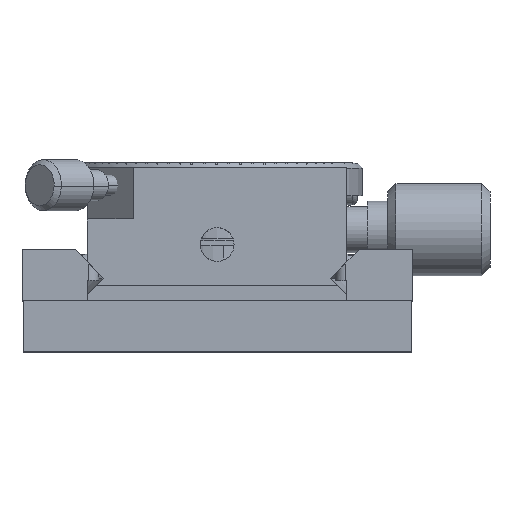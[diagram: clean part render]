
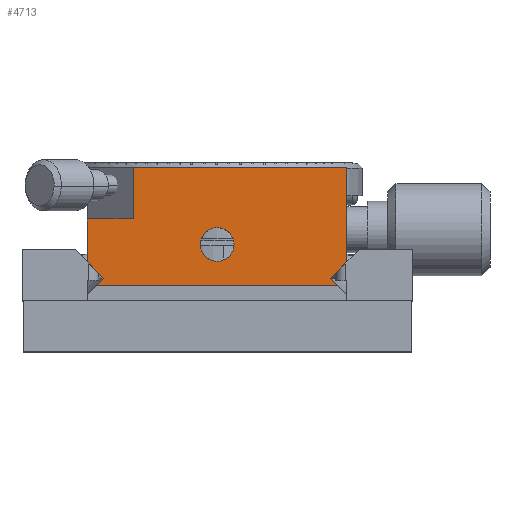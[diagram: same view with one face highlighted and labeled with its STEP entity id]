
A CAD part, top view. The second image highlights one B-rep face of the part: STEP entity #4713.
In plain terms, the highlighted planar face has unit normal (0, 0, 1).
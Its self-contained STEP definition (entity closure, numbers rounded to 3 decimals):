
#282 = ORIENTED_EDGE ( 'NONE', *, *, #7413, .F. ) ;
#366 = LINE ( 'NONE', #12279, #8212 ) ;
#406 = EDGE_CURVE ( 'NONE', #5130, #18977, #7727, .T. ) ;
#467 = CARTESIAN_POINT ( 'NONE',  ( -12.7, 1.5, 16.5 ) ) ;
#575 = ORIENTED_EDGE ( 'NONE', *, *, #2664, .T. ) ;
#828 = CARTESIAN_POINT ( 'NONE',  ( -12.7, 6.5, 16.5 ) ) ;
#862 = LINE ( 'NONE', #828, #13836 ) ;
#1546 = DIRECTION ( 'NONE',  ( 0., 0., 1. ) ) ;
#1669 = CIRCLE ( 'NONE', #15930, 1.65 ) ;
#1807 = ORIENTED_EDGE ( 'NONE', *, *, #8886, .F. ) ;
#1964 = EDGE_CURVE ( 'NONE', #5130, #6741, #862, .T. ) ;
#2397 = CARTESIAN_POINT ( 'NONE',  ( 11.8, -5., 16.5 ) ) ;
#2419 = LINE ( 'NONE', #16889, #5595 ) ;
#2651 = VERTEX_POINT ( 'NONE', #3806 ) ;
#2664 = EDGE_CURVE ( 'NONE', #3949, #12070, #14040, .T. ) ;
#3019 = VERTEX_POINT ( 'NONE', #17888 ) ;
#3539 = CARTESIAN_POINT ( 'NONE',  ( -12.7, 1.5, 16.5 ) ) ;
#3806 = CARTESIAN_POINT ( 'NONE',  ( 12.7, 6.5, 16.5 ) ) ;
#3949 = VERTEX_POINT ( 'NONE', #6855 ) ;
#4036 = CARTESIAN_POINT ( 'NONE',  ( -12.7, -2.7, 16.5 ) ) ;
#4078 = AXIS2_PLACEMENT_3D ( 'NONE', #10941, #1546, #12495 ) ;
#4082 = VECTOR ( 'NONE', #4126, 1000. ) ;
#4126 = DIRECTION ( 'NONE',  ( -1., 0., 0. ) ) ;
#4398 = ORIENTED_EDGE ( 'NONE', *, *, #406, .F. ) ;
#4463 = DIRECTION ( 'NONE',  ( 1., 0., 0. ) ) ;
#4713 = ADVANCED_FACE ( 'NONE', ( #13728, #13229 ), #17901, .F. ) ;
#4756 = CIRCLE ( 'NONE', #4078, 1.65 ) ;
#5100 = VERTEX_POINT ( 'NONE', #17583 ) ;
#5130 = VERTEX_POINT ( 'NONE', #467 ) ;
#5436 = DIRECTION ( 'NONE',  ( 0.707, -0.707, 0. ) ) ;
#5461 = DIRECTION ( 'NONE',  ( -0.707, -0.707, 0. ) ) ;
#5595 = VECTOR ( 'NONE', #5938, 1000. ) ;
#5938 = DIRECTION ( 'NONE',  ( -0.707, -0.707, 0. ) ) ;
#6021 = EDGE_CURVE ( 'NONE', #2651, #19537, #8269, .T. ) ;
#6136 = VECTOR ( 'NONE', #5436, 1000. ) ;
#6223 = ORIENTED_EDGE ( 'NONE', *, *, #12366, .F. ) ;
#6463 = CARTESIAN_POINT ( 'NONE',  ( -8.2, 1.5, 16.5 ) ) ;
#6741 = VERTEX_POINT ( 'NONE', #4036 ) ;
#6855 = CARTESIAN_POINT ( 'NONE',  ( -11.1, -4.3, 16.5 ) ) ;
#6963 = CARTESIAN_POINT ( 'NONE',  ( 0., -1., 16.5 ) ) ;
#7413 = EDGE_CURVE ( 'NONE', #3019, #5100, #1669, .T. ) ;
#7727 = LINE ( 'NONE', #3539, #8231 ) ;
#8202 = VERTEX_POINT ( 'NONE', #11351 ) ;
#8212 = VECTOR ( 'NONE', #4463, 1000. ) ;
#8231 = VECTOR ( 'NONE', #14491, 1000. ) ;
#8269 = LINE ( 'NONE', #17769, #19301 ) ;
#8511 = DIRECTION ( 'NONE',  ( -1., 0., 0. ) ) ;
#8542 = DIRECTION ( 'NONE',  ( 1., 0., 0. ) ) ;
#8642 = DIRECTION ( 'NONE',  ( 0., -1., 0. ) ) ;
#8769 = CARTESIAN_POINT ( 'NONE',  ( 12.7, -5., 16.5 ) ) ;
#8886 = EDGE_CURVE ( 'NONE', #19537, #9027, #2419, .T. ) ;
#9027 = VERTEX_POINT ( 'NONE', #17133 ) ;
#9207 = CARTESIAN_POINT ( 'NONE',  ( -12.7, -2.7, 16.5 ) ) ;
#9884 = VECTOR ( 'NONE', #5461, 1000. ) ;
#9926 = ORIENTED_EDGE ( 'NONE', *, *, #16714, .T. ) ;
#9963 = DIRECTION ( 'NONE',  ( 0., -1., 0. ) ) ;
#10326 = LINE ( 'NONE', #14800, #6136 ) ;
#10345 = CARTESIAN_POINT ( 'NONE',  ( 12.7, -2.7, 16.5 ) ) ;
#10941 = CARTESIAN_POINT ( 'NONE',  ( 0., -1., 16.5 ) ) ;
#11109 = LINE ( 'NONE', #6463, #12121 ) ;
#11351 = CARTESIAN_POINT ( 'NONE',  ( -8.2, 6.5, 16.5 ) ) ;
#12070 = VERTEX_POINT ( 'NONE', #13547 ) ;
#12121 = VECTOR ( 'NONE', #18990, 1000. ) ;
#12279 = CARTESIAN_POINT ( 'NONE',  ( -12.7, 6.5, 16.5 ) ) ;
#12366 = EDGE_CURVE ( 'NONE', #18977, #8202, #11109, .T. ) ;
#12380 = LINE ( 'NONE', #8769, #4082 ) ;
#12495 = DIRECTION ( 'NONE',  ( 1., 0., 0. ) ) ;
#13038 = EDGE_CURVE ( 'NONE', #9027, #18464, #10326, .T. ) ;
#13157 = DIRECTION ( 'NONE',  ( 0., 0., -1. ) ) ;
#13166 = EDGE_LOOP ( 'NONE', ( #14886, #282 ) ) ;
#13229 = FACE_BOUND ( 'NONE', #13166, .T. ) ;
#13458 = ORIENTED_EDGE ( 'NONE', *, *, #1964, .T. ) ;
#13547 = CARTESIAN_POINT ( 'NONE',  ( -11.8, -5., 16.5 ) ) ;
#13645 = ORIENTED_EDGE ( 'NONE', *, *, #20194, .F. ) ;
#13728 = FACE_OUTER_BOUND ( 'NONE', #13952, .T. ) ;
#13836 = VECTOR ( 'NONE', #8642, 1000. ) ;
#13943 = DIRECTION ( 'NONE',  ( 0.707, -0.707, 0. ) ) ;
#13952 = EDGE_LOOP ( 'NONE', ( #575, #19445, #16941, #1807, #19829, #13645, #6223, #4398, #13458, #9926 ) ) ;
#14040 = LINE ( 'NONE', #19493, #9884 ) ;
#14491 = DIRECTION ( 'NONE',  ( 1., 0., 0. ) ) ;
#14800 = CARTESIAN_POINT ( 'NONE',  ( 12.7, -5.9, 16.5 ) ) ;
#14886 = ORIENTED_EDGE ( 'NONE', *, *, #18116, .F. ) ;
#15930 = AXIS2_PLACEMENT_3D ( 'NONE', #6963, #17924, #8542 ) ;
#16314 = CARTESIAN_POINT ( 'NONE',  ( -12.7, 6.5, 16.5 ) ) ;
#16587 = CARTESIAN_POINT ( 'NONE',  ( -8.2, 1.5, 16.5 ) ) ;
#16714 = EDGE_CURVE ( 'NONE', #6741, #3949, #17847, .T. ) ;
#16889 = CARTESIAN_POINT ( 'NONE',  ( 12.7, -2.7, 16.5 ) ) ;
#16941 = ORIENTED_EDGE ( 'NONE', *, *, #13038, .F. ) ;
#17133 = CARTESIAN_POINT ( 'NONE',  ( 11.1, -4.3, 16.5 ) ) ;
#17323 = VECTOR ( 'NONE', #13943, 1000. ) ;
#17583 = CARTESIAN_POINT ( 'NONE',  ( 1.65, -1., 16.5 ) ) ;
#17769 = CARTESIAN_POINT ( 'NONE',  ( 12.7, 6.5, 16.5 ) ) ;
#17847 = LINE ( 'NONE', #9207, #17323 ) ;
#17888 = CARTESIAN_POINT ( 'NONE',  ( -1.65, -1., 16.5 ) ) ;
#17893 = EDGE_CURVE ( 'NONE', #18464, #12070, #12380, .T. ) ;
#17901 = PLANE ( 'NONE',  #20230 ) ;
#17924 = DIRECTION ( 'NONE',  ( 0., 0., 1. ) ) ;
#18116 = EDGE_CURVE ( 'NONE', #5100, #3019, #4756, .T. ) ;
#18464 = VERTEX_POINT ( 'NONE', #2397 ) ;
#18977 = VERTEX_POINT ( 'NONE', #16587 ) ;
#18990 = DIRECTION ( 'NONE',  ( 0., 1., 0. ) ) ;
#19301 = VECTOR ( 'NONE', #9963, 1000. ) ;
#19445 = ORIENTED_EDGE ( 'NONE', *, *, #17893, .F. ) ;
#19493 = CARTESIAN_POINT ( 'NONE',  ( -12.7, -5.9, 16.5 ) ) ;
#19537 = VERTEX_POINT ( 'NONE', #10345 ) ;
#19829 = ORIENTED_EDGE ( 'NONE', *, *, #6021, .F. ) ;
#20194 = EDGE_CURVE ( 'NONE', #8202, #2651, #366, .T. ) ;
#20230 = AXIS2_PLACEMENT_3D ( 'NONE', #16314, #13157, #8511 ) ;
